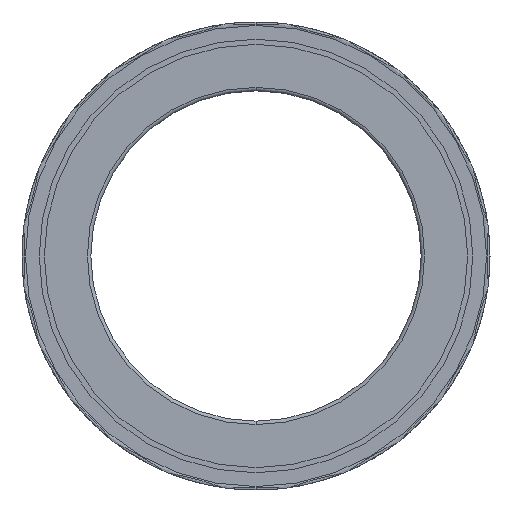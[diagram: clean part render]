
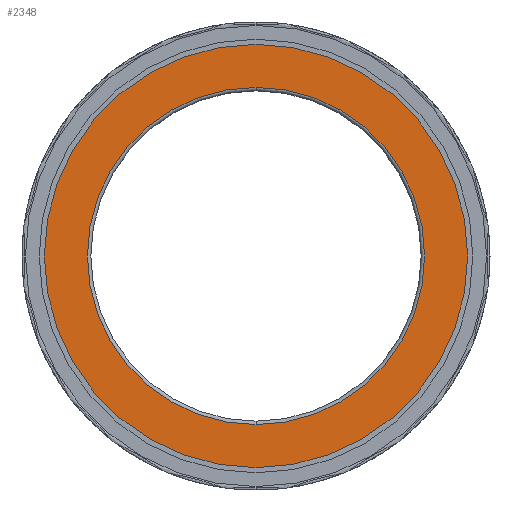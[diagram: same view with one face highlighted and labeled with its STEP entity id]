
A CAD part, front view. The second image highlights one B-rep face of the part: STEP entity #2348.
In plain terms, the highlighted planar face has unit normal (0, -1, 0).
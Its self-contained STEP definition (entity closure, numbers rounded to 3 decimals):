
#19 = FACE_BOUND ( 'NONE', #17242, .T. ) ;
#65 = PLANE ( 'NONE',  #18423 ) ;
#137 = CARTESIAN_POINT ( 'NONE',  ( 6525.967, 1106.366, 0. ) ) ;
#339 = DIRECTION ( 'NONE',  ( 0., 0., 1. ) ) ;
#1624 = ORIENTED_EDGE ( 'NONE', *, *, #11338, .T. ) ;
#1708 = VERTEX_POINT ( 'NONE', #6601 ) ;
#1714 = VERTEX_POINT ( 'NONE', #8114 ) ;
#1718 = ORIENTED_EDGE ( 'NONE', *, *, #6544, .F. ) ;
#1808 = DIRECTION ( 'NONE',  ( 0., -1., 0. ) ) ;
#2215 = AXIS2_PLACEMENT_3D ( 'NONE', #137, #1808, #17026 ) ;
#2340 = EDGE_CURVE ( 'NONE', #1708, #1714, #9388, .T. ) ;
#2348 = ADVANCED_FACE ( 'NONE', ( #19, #13463 ), #65, .F. ) ;
#2739 = VERTEX_POINT ( 'NONE', #5646 ) ;
#3106 = DIRECTION ( 'NONE',  ( 0., -1., 0. ) ) ;
#4107 = ORIENTED_EDGE ( 'NONE', *, *, #2340, .F. ) ;
#4835 = EDGE_CURVE ( 'NONE', #2739, #15532, #14803, .T. ) ;
#5046 = DIRECTION ( 'NONE',  ( 0., -1., 0. ) ) ;
#5188 = CIRCLE ( 'NONE', #10623, 24.5 ) ;
#5249 = CARTESIAN_POINT ( 'NONE',  ( 6525.967, 1106.366, 0. ) ) ;
#5646 = CARTESIAN_POINT ( 'NONE',  ( 6525.967, 1106.366, 30.75 ) ) ;
#5809 = CIRCLE ( 'NONE', #17494, 30.75 ) ;
#5950 = CARTESIAN_POINT ( 'NONE',  ( 6525.967, 1106.366, 0. ) ) ;
#6544 = EDGE_CURVE ( 'NONE', #1714, #1708, #5188, .T. ) ;
#6601 = CARTESIAN_POINT ( 'NONE',  ( 6525.967, 1106.366, -24.5 ) ) ;
#6627 = DIRECTION ( 'NONE',  ( 0., -1., 0. ) ) ;
#6687 = CARTESIAN_POINT ( 'NONE',  ( 6525.967, 1106.366, 0. ) ) ;
#8114 = CARTESIAN_POINT ( 'NONE',  ( 6525.967, 1106.366, 24.5 ) ) ;
#8643 = CARTESIAN_POINT ( 'NONE',  ( 6525.967, 1106.366, -30.75 ) ) ;
#8945 = DIRECTION ( 'NONE',  ( 0., 0., -1. ) ) ;
#9388 = CIRCLE ( 'NONE', #2215, 24.5 ) ;
#9546 = CARTESIAN_POINT ( 'NONE',  ( 6501.467, 1106.366, 0. ) ) ;
#10120 = EDGE_LOOP ( 'NONE', ( #1624, #12786 ) ) ;
#10623 = AXIS2_PLACEMENT_3D ( 'NONE', #5950, #3106, #8945 ) ;
#11338 = EDGE_CURVE ( 'NONE', #15532, #2739, #5809, .T. ) ;
#12737 = DIRECTION ( 'NONE',  ( 0., 0., -1. ) ) ;
#12786 = ORIENTED_EDGE ( 'NONE', *, *, #4835, .T. ) ;
#13463 = FACE_OUTER_BOUND ( 'NONE', #10120, .T. ) ;
#14803 = CIRCLE ( 'NONE', #16988, 30.75 ) ;
#15532 = VERTEX_POINT ( 'NONE', #8643 ) ;
#16988 = AXIS2_PLACEMENT_3D ( 'NONE', #6687, #6627, #17337 ) ;
#17026 = DIRECTION ( 'NONE',  ( 0., 0., -1. ) ) ;
#17101 = DIRECTION ( 'NONE',  ( 0., 1., 0. ) ) ;
#17242 = EDGE_LOOP ( 'NONE', ( #4107, #1718 ) ) ;
#17337 = DIRECTION ( 'NONE',  ( 0., 0., -1. ) ) ;
#17494 = AXIS2_PLACEMENT_3D ( 'NONE', #5249, #5046, #12737 ) ;
#18423 = AXIS2_PLACEMENT_3D ( 'NONE', #9546, #17101, #339 ) ;
